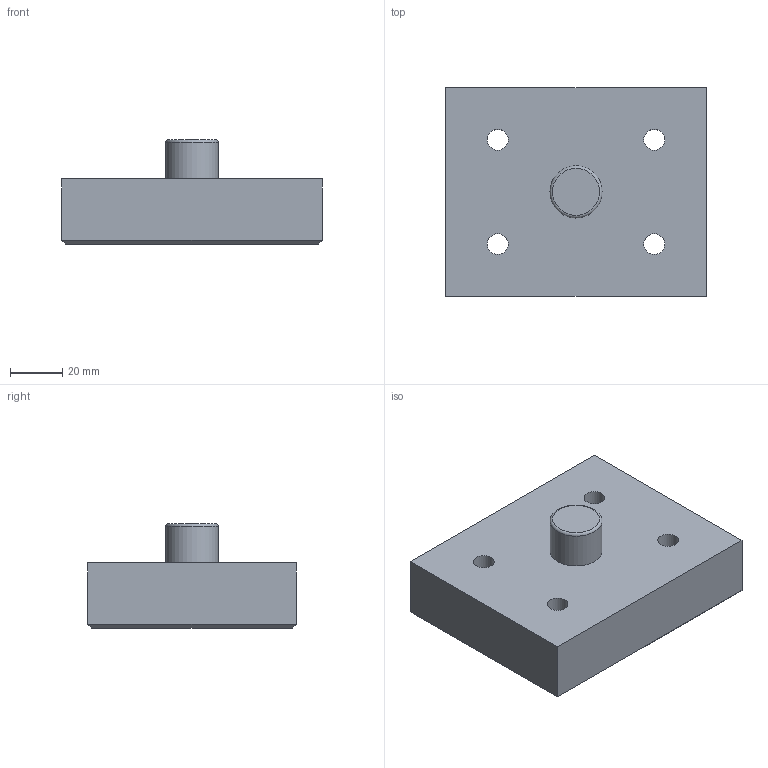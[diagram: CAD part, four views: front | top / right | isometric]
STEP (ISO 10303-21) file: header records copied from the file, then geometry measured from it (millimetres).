
FILE_DESCRIPTION(('Open CASCADE Model'),'2;1');
FILE_NAME('Open CASCADE Shape Model','2026-03-24T09:37:59',('Author'),( 'Open CASCADE'),'Open CASCADE STEP processor 7.8','Open CASCADE 7.8' ,'Unknown');
FILE_SCHEMA(('AUTOMOTIVE_DESIGN { 1 0 10303 214 1 1 1 1 }'));
Length unit declared in the file: millimetre
Products named in the file (1): Open CASCADE STEP translator 7.8 5
Bounding box: 100 x 80 x 40 mm (x, y, z)
Volume: 199144.9 mm3; surface area: 27629.5 mm2
Topology: 1 solids, 1 shells, 21 faces, 45 edges, 27 vertices
Faces by surface type: plane 11, cylinder 5, cone 4, torus 1
Full cylindrical faces by diameter (mm): 8 x4, 20 x1
Entity records: 1188 total; most frequent: CARTESIAN_POINT 242, DIRECTION 177, LINE 99, VECTOR 99, ORIENTED_EDGE 90, PCURVE 90, DEFINITIONAL_REPRESENTATION 90, EDGE_CURVE 45
